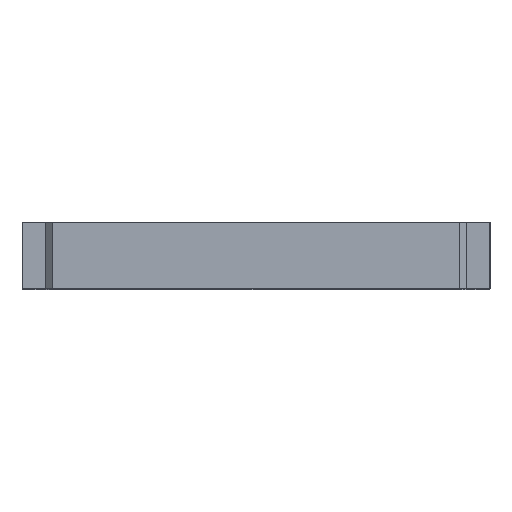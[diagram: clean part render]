
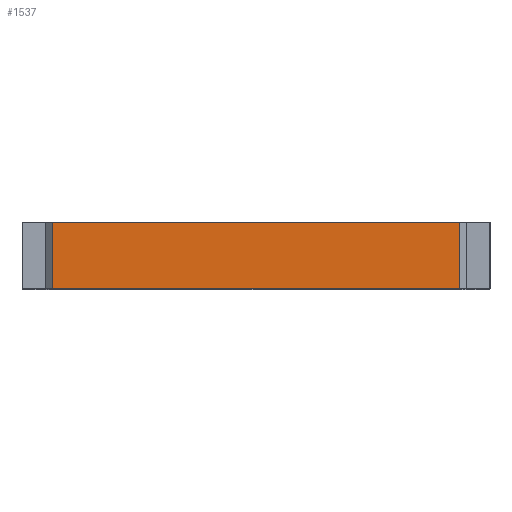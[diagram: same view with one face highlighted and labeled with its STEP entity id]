
A CAD part, front view. The second image highlights one B-rep face of the part: STEP entity #1537.
In plain terms, the highlighted planar face has unit normal (0, -1, 0).
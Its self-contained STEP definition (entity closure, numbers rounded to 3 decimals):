
#1512 = VERTEX_POINT('',#1513);
#1513 = CARTESIAN_POINT('',(138.607,1.852,21.)
  );
#1519 = EDGE_CURVE('',#1520,#1512,#1522,.T.);
#1520 = VERTEX_POINT('',#1521);
#1521 = CARTESIAN_POINT('',(138.607,1.852,0.));
#1522 = LINE('',#1523,#1524);
#1523 = CARTESIAN_POINT('',(138.607,1.852,0.));
#1524 = VECTOR('',#1525,1.);
#1525 = DIRECTION('',(0.,0.,1.));
#1537 = ADVANCED_FACE('',(#1538),#1563,.T.);
#1538 = FACE_BOUND('',#1539,.T.);
#1539 = EDGE_LOOP('',(#1540,#1541,#1549,#1557));
#1540 = ORIENTED_EDGE('',*,*,#1519,.T.);
#1541 = ORIENTED_EDGE('',*,*,#1542,.T.);
#1542 = EDGE_CURVE('',#1512,#1543,#1545,.T.);
#1543 = VERTEX_POINT('',#1544);
#1544 = CARTESIAN_POINT('',(9.664,1.852,21.));
#1545 = LINE('',#1546,#1547);
#1546 = CARTESIAN_POINT('',(138.607,1.852,21.)
  );
#1547 = VECTOR('',#1548,1.);
#1548 = DIRECTION('',(-1.,0.,0.));
#1549 = ORIENTED_EDGE('',*,*,#1550,.F.);
#1550 = EDGE_CURVE('',#1551,#1543,#1553,.T.);
#1551 = VERTEX_POINT('',#1552);
#1552 = CARTESIAN_POINT('',(9.664,1.852,0.));
#1553 = LINE('',#1554,#1555);
#1554 = CARTESIAN_POINT('',(9.664,1.852,0.));
#1555 = VECTOR('',#1556,1.);
#1556 = DIRECTION('',(0.,0.,1.));
#1557 = ORIENTED_EDGE('',*,*,#1558,.F.);
#1558 = EDGE_CURVE('',#1520,#1551,#1559,.T.);
#1559 = LINE('',#1560,#1561);
#1560 = CARTESIAN_POINT('',(138.607,1.852,0.));
#1561 = VECTOR('',#1562,1.);
#1562 = DIRECTION('',(-1.,0.,0.));
#1563 = PLANE('',#1564);
#1564 = AXIS2_PLACEMENT_3D('',#1565,#1566,#1567);
#1565 = CARTESIAN_POINT('',(138.607,1.852,0.));
#1566 = DIRECTION('',(0.,-1.,0.));
#1567 = DIRECTION('',(-1.,0.,0.));
